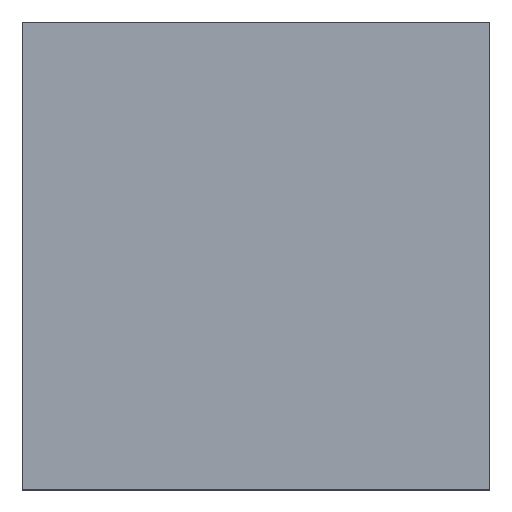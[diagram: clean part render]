
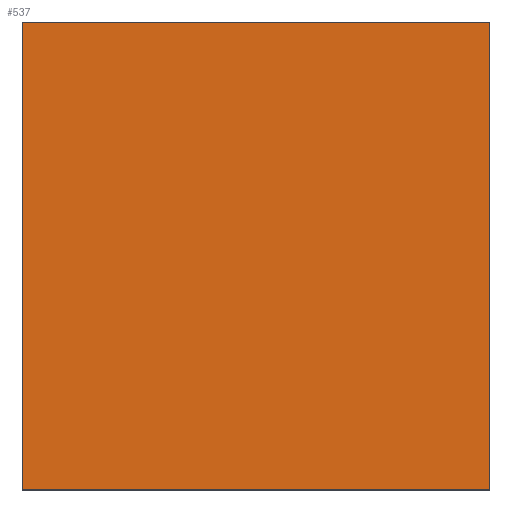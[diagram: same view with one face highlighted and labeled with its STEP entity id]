
A CAD part, top view. The second image highlights one B-rep face of the part: STEP entity #537.
In plain terms, the highlighted planar face has unit normal (0, 0, 1).
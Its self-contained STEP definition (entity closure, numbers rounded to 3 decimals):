
#17 = CARTESIAN_POINT ( 'NONE',  ( 70., -35., 35. ) ) ;
#21 = VECTOR ( 'NONE', #72, 1000. ) ;
#72 = DIRECTION ( 'NONE',  ( 0., -1., 0. ) ) ;
#85 = LINE ( 'NONE', #416, #471 ) ;
#119 = LINE ( 'NONE', #622, #814 ) ;
#142 = FACE_OUTER_BOUND ( 'NONE', #844, .T. ) ;
#163 = LINE ( 'NONE', #957, #21 ) ;
#230 = ORIENTED_EDGE ( 'NONE', *, *, #912, .F. ) ;
#355 = DIRECTION ( 'NONE',  ( -1., 0., 0. ) ) ;
#362 = ORIENTED_EDGE ( 'NONE', *, *, #1022, .T. ) ;
#364 = EDGE_CURVE ( 'NONE', #819, #960, #119, .T. ) ;
#388 = ORIENTED_EDGE ( 'NONE', *, *, #364, .F. ) ;
#416 = CARTESIAN_POINT ( 'NONE',  ( 0., -35., 35. ) ) ;
#427 = CARTESIAN_POINT ( 'NONE',  ( 0., 35., 35. ) ) ;
#467 = EDGE_CURVE ( 'NONE', #753, #680, #798, .T. ) ;
#469 = VECTOR ( 'NONE', #548, 1000. ) ;
#471 = VECTOR ( 'NONE', #1011, 1000. ) ;
#473 = PLANE ( 'NONE',  #595 ) ;
#528 = CARTESIAN_POINT ( 'NONE',  ( 70., -35., 35. ) ) ;
#537 = ADVANCED_FACE ( 'NONE', ( #142 ), #473, .F. ) ;
#548 = DIRECTION ( 'NONE',  ( -1., 0., 0. ) ) ;
#595 = AXIS2_PLACEMENT_3D ( 'NONE', #17, #659, #355 ) ;
#618 = CARTESIAN_POINT ( 'NONE',  ( 70., 35., 35. ) ) ;
#622 = CARTESIAN_POINT ( 'NONE',  ( 70., -35., 35. ) ) ;
#659 = DIRECTION ( 'NONE',  ( 0., 0., -1. ) ) ;
#680 = VERTEX_POINT ( 'NONE', #427 ) ;
#724 = CARTESIAN_POINT ( 'NONE',  ( 70., 35., 35. ) ) ;
#753 = VERTEX_POINT ( 'NONE', #618 ) ;
#798 = LINE ( 'NONE', #724, #469 ) ;
#814 = VECTOR ( 'NONE', #921, 1000. ) ;
#819 = VERTEX_POINT ( 'NONE', #528 ) ;
#844 = EDGE_LOOP ( 'NONE', ( #362, #388, #230, #990 ) ) ;
#870 = CARTESIAN_POINT ( 'NONE',  ( 0., -35., 35. ) ) ;
#912 = EDGE_CURVE ( 'NONE', #753, #819, #163, .T. ) ;
#921 = DIRECTION ( 'NONE',  ( -1., 0., 0. ) ) ;
#957 = CARTESIAN_POINT ( 'NONE',  ( 70., -35., 35. ) ) ;
#960 = VERTEX_POINT ( 'NONE', #870 ) ;
#990 = ORIENTED_EDGE ( 'NONE', *, *, #467, .T. ) ;
#1011 = DIRECTION ( 'NONE',  ( 0., -1., 0. ) ) ;
#1022 = EDGE_CURVE ( 'NONE', #680, #960, #85, .T. ) ;
